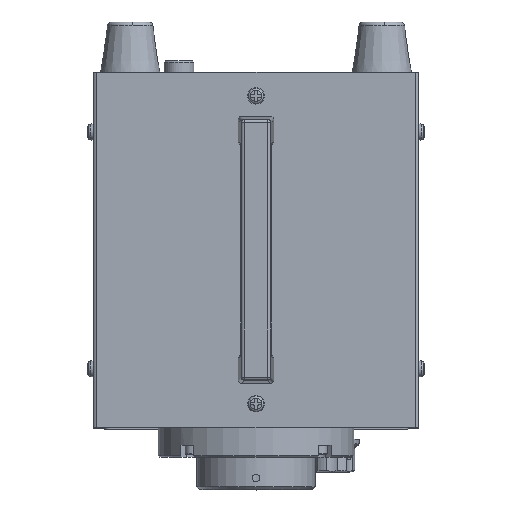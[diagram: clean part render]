
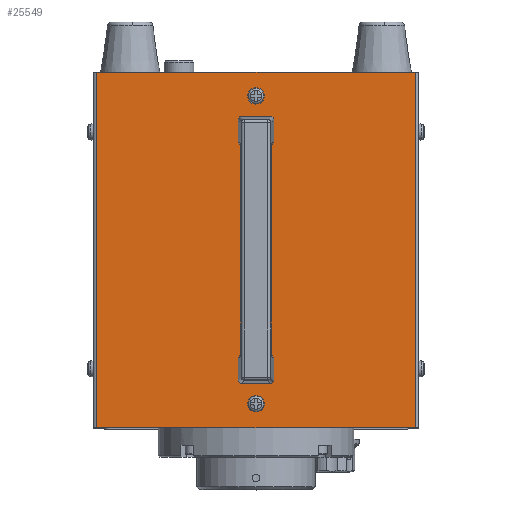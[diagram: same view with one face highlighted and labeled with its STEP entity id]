
A CAD part, top view. The second image highlights one B-rep face of the part: STEP entity #25549.
In plain terms, the highlighted planar face has unit normal (0, 0, 1).
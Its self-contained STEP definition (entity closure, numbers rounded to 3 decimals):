
#361=FACE_BOUND('',#5495,.T.);
#362=FACE_BOUND('',#5496,.T.);
#363=FACE_BOUND('',#5497,.T.);
#364=FACE_BOUND('',#5498,.T.);
#1375=CIRCLE('',#27136,1.75);
#1376=CIRCLE('',#27137,1.75);
#1377=CIRCLE('',#27138,2.75);
#1378=CIRCLE('',#27139,2.75);
#3985=FACE_OUTER_BOUND('',#5494,.T.);
#5494=EDGE_LOOP('',(#17789,#17790,#17791,#17792));
#5495=EDGE_LOOP('',(#17793));
#5496=EDGE_LOOP('',(#17794));
#5497=EDGE_LOOP('',(#17795));
#5498=EDGE_LOOP('',(#17796));
#7831=LINE('',#38580,#9638);
#7832=LINE('',#38583,#9639);
#7840=LINE('',#38601,#9647);
#7841=LINE('',#38602,#9648);
#9638=VECTOR('',#30500,10.);
#9639=VECTOR('',#30503,10.);
#9647=VECTOR('',#30515,10.);
#9648=VECTOR('',#30516,10.);
#11448=VERTEX_POINT('',#38573);
#11451=VERTEX_POINT('',#38578);
#11452=VERTEX_POINT('',#38582);
#11460=VERTEX_POINT('',#38600);
#11461=VERTEX_POINT('',#38603);
#11462=VERTEX_POINT('',#38605);
#11463=VERTEX_POINT('',#38607);
#11464=VERTEX_POINT('',#38609);
#13917=EDGE_CURVE('',#11451,#11448,#7831,.T.);
#13918=EDGE_CURVE('',#11452,#11448,#7832,.T.);
#13927=EDGE_CURVE('',#11460,#11451,#7840,.T.);
#13928=EDGE_CURVE('',#11452,#11460,#7841,.T.);
#13929=EDGE_CURVE('',#11461,#11461,#1375,.T.);
#13930=EDGE_CURVE('',#11462,#11462,#1376,.T.);
#13931=EDGE_CURVE('',#11463,#11463,#1377,.T.);
#13932=EDGE_CURVE('',#11464,#11464,#1378,.T.);
#17789=ORIENTED_EDGE('',*,*,#13917,.F.);
#17790=ORIENTED_EDGE('',*,*,#13927,.F.);
#17791=ORIENTED_EDGE('',*,*,#13928,.F.);
#17792=ORIENTED_EDGE('',*,*,#13918,.T.);
#17793=ORIENTED_EDGE('',*,*,#13929,.T.);
#17794=ORIENTED_EDGE('',*,*,#13930,.T.);
#17795=ORIENTED_EDGE('',*,*,#13931,.T.);
#17796=ORIENTED_EDGE('',*,*,#13932,.T.);
#24898=PLANE('',#27135);
#25549=ADVANCED_FACE('',(#3985,#361,#362,#363,#364),#24898,.T.);
#27135=AXIS2_PLACEMENT_3D('',#38599,#30513,#30514);
#27136=AXIS2_PLACEMENT_3D('',#38604,#30517,#30518);
#27137=AXIS2_PLACEMENT_3D('',#38606,#30519,#30520);
#27138=AXIS2_PLACEMENT_3D('',#38608,#30521,#30522);
#27139=AXIS2_PLACEMENT_3D('',#38610,#30523,#30524);
#30500=DIRECTION('',(0.,-1.,0.));
#30503=DIRECTION('',(1.,0.,0.));
#30513=DIRECTION('center_axis',(0.,0.,
1.));
#30514=DIRECTION('ref_axis',(0.,-1.,0.));
#30515=DIRECTION('',(1.,0.,0.));
#30516=DIRECTION('',(0.,1.,0.));
#30517=DIRECTION('center_axis',(0.,0.,
-1.));
#30518=DIRECTION('ref_axis',(0.,-1.,0.));
#30519=DIRECTION('center_axis',(0.,0.,
-1.));
#30520=DIRECTION('ref_axis',(0.,-1.,0.));
#30521=DIRECTION('center_axis',(0.,0.,
-1.));
#30522=DIRECTION('ref_axis',(0.,-1.,0.));
#30523=DIRECTION('center_axis',(0.,0.,
-1.));
#30524=DIRECTION('ref_axis',(0.,-1.,0.));
#38573=CARTESIAN_POINT('',(53.8,20.,40.));
#38578=CARTESIAN_POINT('',(53.8,140.,40.));
#38580=CARTESIAN_POINT('',(53.8,110.,40.));
#38582=CARTESIAN_POINT('',(-53.8,20.,40.));
#38583=CARTESIAN_POINT('',(-55.,20.,40.));
#38599=CARTESIAN_POINT('Origin',(-55.,140.,40.));
#38600=CARTESIAN_POINT('',(-53.8,140.,40.));
#38601=CARTESIAN_POINT('',(-55.,140.,40.));
#38602=CARTESIAN_POINT('',(-53.8,110.,40.));
#38603=CARTESIAN_POINT('',(0.,29.75,40.));
#38604=CARTESIAN_POINT('Origin',(0.,28.,
40.));
#38605=CARTESIAN_POINT('',(0.,133.75,40.));
#38606=CARTESIAN_POINT('Origin',(0.,132.,
40.));
#38607=CARTESIAN_POINT('',(0.,42.75,40.));
#38608=CARTESIAN_POINT('Origin',(0.,40.,
40.));
#38609=CARTESIAN_POINT('',(0.,122.75,40.));
#38610=CARTESIAN_POINT('Origin',(0.,120.,
40.));
